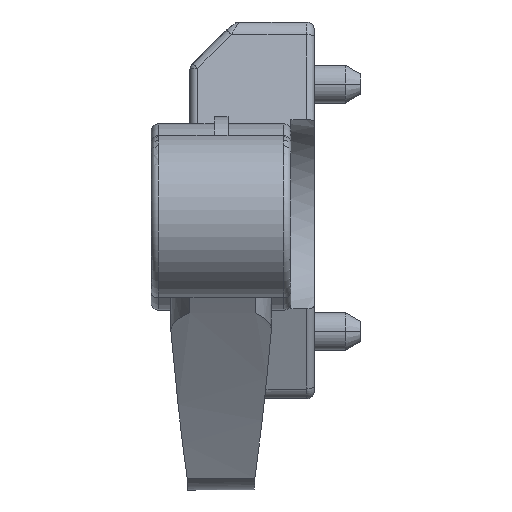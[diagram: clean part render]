
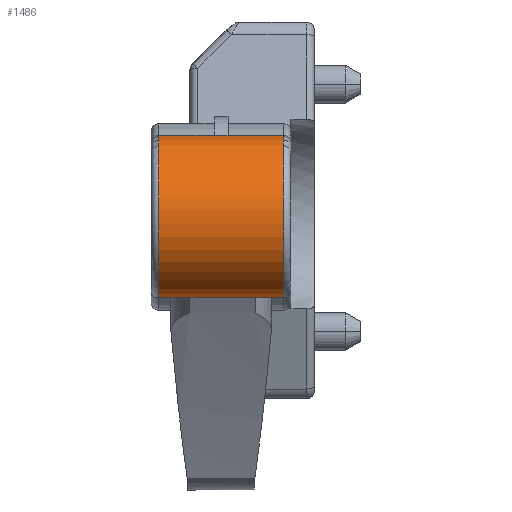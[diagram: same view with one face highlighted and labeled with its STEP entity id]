
A CAD part, front view. The second image highlights one B-rep face of the part: STEP entity #1486.
In plain terms, the highlighted cylindrical face has radius 10.5 mm (diameter 21 mm), a partial arc.
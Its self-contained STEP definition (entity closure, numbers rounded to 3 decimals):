
#215 = VERTEX_POINT ( 'NONE', #2516 ) ;
#216 = VERTEX_POINT ( 'NONE', #2517 ) ;
#218 = VERTEX_POINT ( 'NONE', #2519 ) ;
#222 = VERTEX_POINT ( 'NONE', #2523 ) ;
#230 = VERTEX_POINT ( 'NONE', #2531 ) ;
#300 = EDGE_CURVE ( 'NONE', #215, #1372, #2609, .T. ) ;
#301 = EDGE_CURVE ( 'NONE', #222, #215, #2614, .T. ) ;
#302 = EDGE_CURVE ( 'NONE', #1378, #222, #2613, .T. ) ;
#303 = EDGE_CURVE ( 'NONE', #218, #3746, #1465, .T. ) ;
#304 = EDGE_CURVE ( 'NONE', #216, #218, #2627, .T. ) ;
#305 = EDGE_CURVE ( 'NONE', #216, #230, #1467, .T. ) ;
#333 = EDGE_CURVE ( 'NONE', #1378, #1368, #954, .T. ) ;
#338 = EDGE_CURVE ( 'NONE', #1370, #1372, #963, .T. ) ;
#569 = EDGE_LOOP ( 'NONE', ( #2106, #2105, #2104, #2103, #2102, #2101, #2100, #2099, #2098, #2097 ) ) ;
#629 = EDGE_CURVE ( 'NONE', #3746, #1368, #2646, .T. ) ;
#954 = CIRCLE ( 'NONE', #962, 10.5 ) ;
#962 = AXIS2_PLACEMENT_3D ( 'NONE', #3476, #3477, #3478 ) ;
#963 = CIRCLE ( 'NONE', #969, 10.5 ) ;
#969 = AXIS2_PLACEMENT_3D ( 'NONE', #3504, #3505, #3506 ) ;
#1004 = CARTESIAN_POINT ( 'NONE',  ( -21., -149.906, 18.768 ) ) ;
#1029 = LINE ( 'NONE', #1004, #2312 ) ;
#1033 = DIRECTION ( 'NONE',  ( 1., 0., 0. ) ) ;
#1193 = CARTESIAN_POINT ( 'NONE',  ( -11.1, -149.906, 18.768 ) ) ;
#1368 = VERTEX_POINT ( 'NONE', #2696 ) ;
#1370 = VERTEX_POINT ( 'NONE', #2704 ) ;
#1372 = VERTEX_POINT ( 'NONE', #2705 ) ;
#1378 = VERTEX_POINT ( 'NONE', #2711 ) ;
#1450 = VECTOR ( 'NONE', #2656, 1000. ) ;
#1460 = VECTOR ( 'NONE', #2620, 1000. ) ;
#1462 = VECTOR ( 'NONE', #2618, 1000. ) ;
#1464 = VECTOR ( 'NONE', #2624, 1000. ) ;
#1465 = CIRCLE ( 'NONE', #1468, 10.5 ) ;
#1466 = VECTOR ( 'NONE', #2635, 1000. ) ;
#1467 = CIRCLE ( 'NONE', #1475, 10.5 ) ;
#1468 = AXIS2_PLACEMENT_3D ( 'NONE', #2629, #2631, #2632 ) ;
#1475 = AXIS2_PLACEMENT_3D ( 'NONE', #3094, #3095, #3096 ) ;
#1486 = ADVANCED_FACE ( 'NONE', ( #2787 ), #2789, .T. ) ;
#2097 = ORIENTED_EDGE ( 'NONE', *, *, #305, .T. ) ;
#2098 = ORIENTED_EDGE ( 'NONE', *, *, #304, .F. ) ;
#2099 = ORIENTED_EDGE ( 'NONE', *, *, #303, .F. ) ;
#2100 = ORIENTED_EDGE ( 'NONE', *, *, #629, .F. ) ;
#2101 = ORIENTED_EDGE ( 'NONE', *, *, #333, .T. ) ;
#2102 = ORIENTED_EDGE ( 'NONE', *, *, #302, .F. ) ;
#2103 = ORIENTED_EDGE ( 'NONE', *, *, #301, .F. ) ;
#2104 = ORIENTED_EDGE ( 'NONE', *, *, #300, .F. ) ;
#2105 = ORIENTED_EDGE ( 'NONE', *, *, #338, .T. ) ;
#2106 = ORIENTED_EDGE ( 'NONE', *, *, #3659, .F. ) ;
#2312 = VECTOR ( 'NONE', #1033, 1000. ) ;
#2516 = CARTESIAN_POINT ( 'NONE',  ( -16., -151.602, -2.094 ) ) ;
#2517 = CARTESIAN_POINT ( 'NONE',  ( -12.9, -149.998, 18.768 ) ) ;
#2519 = CARTESIAN_POINT ( 'NONE',  ( -11.1, -149.998, 18.768 ) ) ;
#2523 = CARTESIAN_POINT ( 'NONE',  ( -7.539, -151.602, -2.094 ) ) ;
#2531 = CARTESIAN_POINT ( 'NONE',  ( -12.9, -149.906, 18.768 ) ) ;
#2607 = CARTESIAN_POINT ( 'NONE',  ( -3., -151.602, -2.094 ) ) ;
#2609 = LINE ( 'NONE', #2607, #1462 ) ;
#2613 = LINE ( 'NONE', #2621, #1464 ) ;
#2614 = LINE ( 'NONE', #2619, #1460 ) ;
#2618 = DIRECTION ( 'NONE',  ( -1., 0., 0. ) ) ;
#2619 = CARTESIAN_POINT ( 'NONE',  ( -3., -151.602, -2.094 ) ) ;
#2620 = DIRECTION ( 'NONE',  ( -1., 0., 0. ) ) ;
#2621 = CARTESIAN_POINT ( 'NONE',  ( -3., -151.602, -2.094 ) ) ;
#2622 = CARTESIAN_POINT ( 'NONE',  ( -12., -149.998, 18.768 ) ) ;
#2624 = DIRECTION ( 'NONE',  ( -1., 0., 0. ) ) ;
#2627 = LINE ( 'NONE', #2622, #1466 ) ;
#2629 = CARTESIAN_POINT ( 'NONE',  ( -11.1, -149.906, 8.268 ) ) ;
#2631 = DIRECTION ( 'NONE',  ( -1., 0., 0. ) ) ;
#2632 = DIRECTION ( 'NONE',  ( 0., 0., -1. ) ) ;
#2635 = DIRECTION ( 'NONE',  ( 1., 0., 0. ) ) ;
#2646 = LINE ( 'NONE', #2647, #1450 ) ;
#2647 = CARTESIAN_POINT ( 'NONE',  ( -21., -149.906, 18.768 ) ) ;
#2656 = DIRECTION ( 'NONE',  ( 1., 0., 0. ) ) ;
#2696 = CARTESIAN_POINT ( 'NONE',  ( -4., -149.906, 18.768 ) ) ;
#2704 = CARTESIAN_POINT ( 'NONE',  ( -20., -149.906, 18.768 ) ) ;
#2705 = CARTESIAN_POINT ( 'NONE',  ( -20., -151.602, -2.094 ) ) ;
#2711 = CARTESIAN_POINT ( 'NONE',  ( -4., -151.602, -2.094 ) ) ;
#2775 = DIRECTION ( 'NONE',  ( 1., 0., 0. ) ) ;
#2787 = FACE_OUTER_BOUND ( 'NONE', #569, .T. ) ;
#2788 = CARTESIAN_POINT ( 'NONE',  ( -21., -149.906, 8.268 ) ) ;
#2789 = CYLINDRICAL_SURFACE ( 'NONE', #3258, 10.5 ) ;
#2790 = DIRECTION ( 'NONE',  ( 0., 0., 1. ) ) ;
#3094 = CARTESIAN_POINT ( 'NONE',  ( -12.9, -149.906, 8.268 ) ) ;
#3095 = DIRECTION ( 'NONE',  ( -1., 0., 0. ) ) ;
#3096 = DIRECTION ( 'NONE',  ( 0., 0., -1. ) ) ;
#3258 = AXIS2_PLACEMENT_3D ( 'NONE', #2788, #2775, #2790 ) ;
#3476 = CARTESIAN_POINT ( 'NONE',  ( -4., -149.906, 8.268 ) ) ;
#3477 = DIRECTION ( 'NONE',  ( -1., 0., 0. ) ) ;
#3478 = DIRECTION ( 'NONE',  ( 0., 0., -1. ) ) ;
#3504 = CARTESIAN_POINT ( 'NONE',  ( -20., -149.906, 8.268 ) ) ;
#3505 = DIRECTION ( 'NONE',  ( 1., 0., 0. ) ) ;
#3506 = DIRECTION ( 'NONE',  ( 0., 0., -1. ) ) ;
#3659 = EDGE_CURVE ( 'NONE', #1370, #230, #1029, .T. ) ;
#3746 = VERTEX_POINT ( 'NONE', #1193 ) ;
